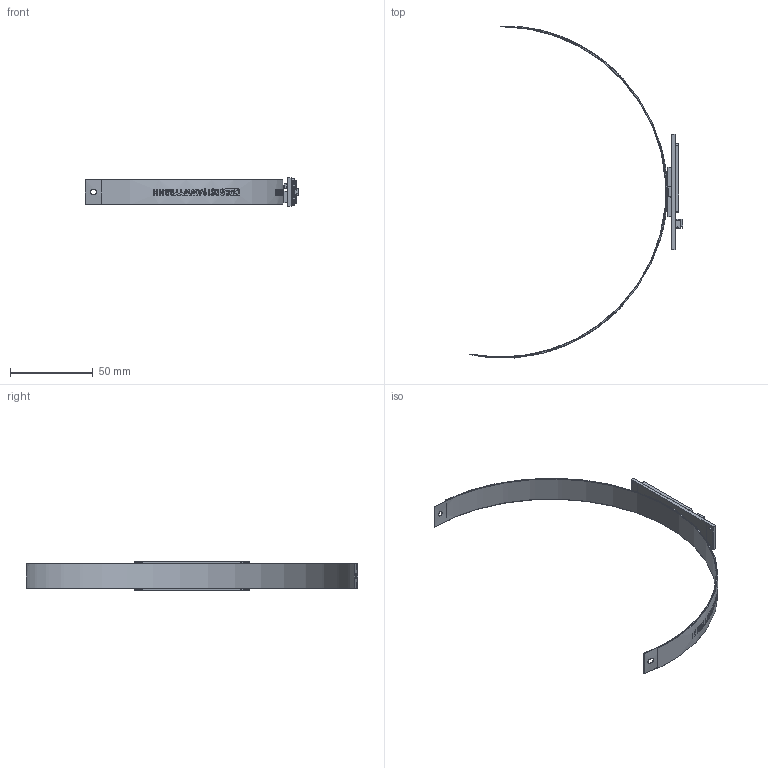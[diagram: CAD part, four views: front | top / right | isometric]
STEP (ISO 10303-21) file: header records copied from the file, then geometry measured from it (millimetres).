
FILE_DESCRIPTION (( 'STEP AP214' ), '1' );
FILE_NAME ('DS19_adaptiven_radij_200mm_DBRxHx_PCB_horizontalen_konektor.STEP', '2024-02-01T11:58:38', ( '' ), ( '' ), 'SwSTEP 2.0', 'SolidWorks 2022', '' );
FILE_SCHEMA (( 'AUTOMOTIVE_DESIGN' ));
Length unit declared in the file: millimetre
Products named in the file (1): DS19_adaptiven_radij_200mm_DBRxHx_PCB_horizontalen_konektor
Bounding box: 129.23 x 200.88 x 17 mm (x, y, z)
Volume: 4165.9 mm3; surface area: 23801.6 mm2
Topology: 2 solids, 3 shells, 1456 faces, 4018 edges, 2671 vertices
Faces by surface type: plane 827, bspline 460, cylinder 161, sphere 4, cone 4
Entity records: 94554 total; most frequent: CARTESIAN_POINT 48711, ORIENTED_EDGE 8022, EDGE_CURVE 4011, B_SPLINE_CURVE_WITH_KNOTS 3203, DIRECTION 3122, VERTEX_POINT 2670, EDGE_LOOP 1605, UNCERTAINTY_MEASURE_WITH_UNIT 1461
